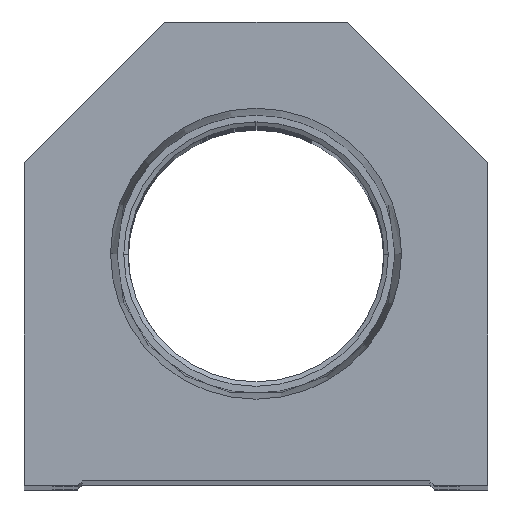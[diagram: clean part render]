
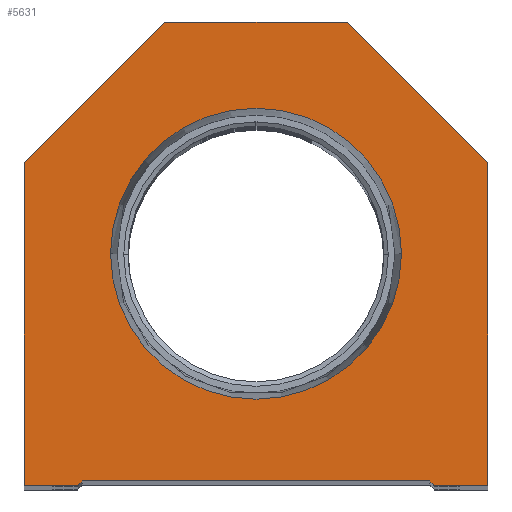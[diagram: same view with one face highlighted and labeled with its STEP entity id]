
A CAD part, top view. The second image highlights one B-rep face of the part: STEP entity #5631.
In plain terms, the highlighted planar face has unit normal (0, 0, 1).
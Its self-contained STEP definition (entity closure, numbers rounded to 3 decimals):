
#62 = DIRECTION ( 'NONE',  ( 0., 0., 1. ) ) ;
#351 = LINE ( 'NONE', #12432, #18778 ) ;
#560 = VECTOR ( 'NONE', #5741, 1000. ) ;
#974 = ORIENTED_EDGE ( 'NONE', *, *, #14354, .T. ) ;
#1681 = VECTOR ( 'NONE', #13711, 1000. ) ;
#2252 = CARTESIAN_POINT ( 'NONE',  ( -25.4, 0., 0. ) ) ;
#2334 = VECTOR ( 'NONE', #8551, 1000. ) ;
#2505 = DIRECTION ( 'NONE',  ( -0.707, 0.707, 0. ) ) ;
#2569 = CARTESIAN_POINT ( 'NONE',  ( 19.05, 0.5, 0. ) ) ;
#2792 = AXIS2_PLACEMENT_3D ( 'NONE', #17011, #14379, #17768 ) ;
#2877 = EDGE_CURVE ( 'NONE', #21519, #8787, #17196, .T. ) ;
#3186 = VERTEX_POINT ( 'NONE', #10537 ) ;
#3266 = CARTESIAN_POINT ( 'NONE',  ( 25.4, 35.4, 0. ) ) ;
#3599 = ORIENTED_EDGE ( 'NONE', *, *, #15642, .T. ) ;
#3644 = LINE ( 'NONE', #5189, #14522 ) ;
#3671 = PLANE ( 'NONE',  #21254 ) ;
#3989 = DIRECTION ( 'NONE',  ( 1., 0., 0. ) ) ;
#4129 = VECTOR ( 'NONE', #20834, 1000. ) ;
#4183 = CARTESIAN_POINT ( 'NONE',  ( -9.775, 9.775, 0. ) ) ;
#4505 = CARTESIAN_POINT ( 'NONE',  ( 19.55, 0., 0. ) ) ;
#4553 = VECTOR ( 'NONE', #9525, 1000. ) ;
#4874 = LINE ( 'NONE', #21818, #14083 ) ;
#5030 = VERTEX_POINT ( 'NONE', #2569 ) ;
#5189 = CARTESIAN_POINT ( 'NONE',  ( -19.05, 0., 0. ) ) ;
#5300 = CARTESIAN_POINT ( 'NONE',  ( -19.55, 0., 0. ) ) ;
#5631 = ADVANCED_FACE ( 'NONE', ( #12442, #10660 ), #3671, .T. ) ;
#5649 = CARTESIAN_POINT ( 'NONE',  ( 10., 50.8, 0. ) ) ;
#5741 = DIRECTION ( 'NONE',  ( 0.707, -0.707, 0. ) ) ;
#6141 = ORIENTED_EDGE ( 'NONE', *, *, #12780, .T. ) ;
#6261 = VERTEX_POINT ( 'NONE', #3266 ) ;
#6302 = CARTESIAN_POINT ( 'NONE',  ( -10., 50.8, 0. ) ) ;
#6327 = AXIS2_PLACEMENT_3D ( 'NONE', #15396, #62, #8356 ) ;
#6419 = ORIENTED_EDGE ( 'NONE', *, *, #15986, .F. ) ;
#6777 = VERTEX_POINT ( 'NONE', #20034 ) ;
#7329 = VERTEX_POINT ( 'NONE', #16388 ) ;
#7419 = LINE ( 'NONE', #21026, #560 ) ;
#7614 = VERTEX_POINT ( 'NONE', #2252 ) ;
#7720 = EDGE_CURVE ( 'NONE', #5030, #21519, #7419, .T. ) ;
#7748 = VERTEX_POINT ( 'NONE', #6302 ) ;
#7845 = CARTESIAN_POINT ( 'NONE',  ( 25.4, 35.4, 0. ) ) ;
#8356 = DIRECTION ( 'NONE',  ( 1., 0., 0. ) ) ;
#8551 = DIRECTION ( 'NONE',  ( 1., 0., 0. ) ) ;
#8727 = ORIENTED_EDGE ( 'NONE', *, *, #7720, .T. ) ;
#8787 = VERTEX_POINT ( 'NONE', #21080 ) ;
#8983 = CARTESIAN_POINT ( 'NONE',  ( 0., 0., 0. ) ) ;
#9073 = VECTOR ( 'NONE', #19044, 1000. ) ;
#9248 = ORIENTED_EDGE ( 'NONE', *, *, #18871, .T. ) ;
#9525 = DIRECTION ( 'NONE',  ( 0.707, 0.707, 0. ) ) ;
#10322 = LINE ( 'NONE', #10639, #9073 ) ;
#10331 = DIRECTION ( 'NONE',  ( 0., -1., 0. ) ) ;
#10537 = CARTESIAN_POINT ( 'NONE',  ( -15.947, 25.4, 0. ) ) ;
#10639 = CARTESIAN_POINT ( 'NONE',  ( 25.4, 0., 0. ) ) ;
#10660 = FACE_OUTER_BOUND ( 'NONE', #19102, .T. ) ;
#11043 = VERTEX_POINT ( 'NONE', #5649 ) ;
#11093 = ORIENTED_EDGE ( 'NONE', *, *, #21725, .F. ) ;
#12127 = CARTESIAN_POINT ( 'NONE',  ( 19.05, 0., 0. ) ) ;
#12228 = CARTESIAN_POINT ( 'NONE',  ( 15.947, 25.4, 0. ) ) ;
#12432 = CARTESIAN_POINT ( 'NONE',  ( -25.4, 0., 0. ) ) ;
#12442 = FACE_BOUND ( 'NONE', #15754, .T. ) ;
#12513 = VERTEX_POINT ( 'NONE', #12228 ) ;
#12780 = EDGE_CURVE ( 'NONE', #7748, #7329, #4874, .T. ) ;
#12854 = EDGE_CURVE ( 'NONE', #8787, #6261, #10322, .T. ) ;
#13488 = LINE ( 'NONE', #20503, #2334 ) ;
#13711 = DIRECTION ( 'NONE',  ( 1., 0., 0. ) ) ;
#14037 = CARTESIAN_POINT ( 'NONE',  ( 10., 50.8, 0. ) ) ;
#14083 = VECTOR ( 'NONE', #16924, 1000. ) ;
#14354 = EDGE_CURVE ( 'NONE', #11043, #7748, #17198, .T. ) ;
#14379 = DIRECTION ( 'NONE',  ( 0., 0., 1. ) ) ;
#14522 = VECTOR ( 'NONE', #15441, 1000. ) ;
#14540 = VECTOR ( 'NONE', #2505, 1000. ) ;
#14556 = LINE ( 'NONE', #7845, #14540 ) ;
#14560 = ORIENTED_EDGE ( 'NONE', *, *, #14704, .T. ) ;
#14704 = EDGE_CURVE ( 'NONE', #7329, #7614, #351, .T. ) ;
#15006 = ORIENTED_EDGE ( 'NONE', *, *, #2877, .T. ) ;
#15231 = ORIENTED_EDGE ( 'NONE', *, *, #15854, .T. ) ;
#15396 = CARTESIAN_POINT ( 'NONE',  ( 0., 25.4, 0. ) ) ;
#15441 = DIRECTION ( 'NONE',  ( 1., 0., 0. ) ) ;
#15642 = EDGE_CURVE ( 'NONE', #7614, #15668, #3644, .T. ) ;
#15668 = VERTEX_POINT ( 'NONE', #5300 ) ;
#15754 = EDGE_LOOP ( 'NONE', ( #6419, #11093 ) ) ;
#15854 = EDGE_CURVE ( 'NONE', #15668, #6777, #16210, .T. ) ;
#15877 = EDGE_CURVE ( 'NONE', #6261, #11043, #14556, .T. ) ;
#15930 = CIRCLE ( 'NONE', #6327, 15.947 ) ;
#15986 = EDGE_CURVE ( 'NONE', #12513, #3186, #22008, .T. ) ;
#16210 = LINE ( 'NONE', #4183, #4553 ) ;
#16388 = CARTESIAN_POINT ( 'NONE',  ( -25.4, 35.4, 0. ) ) ;
#16924 = DIRECTION ( 'NONE',  ( -0.707, -0.707, 0. ) ) ;
#17011 = CARTESIAN_POINT ( 'NONE',  ( 0., 25.4, 0. ) ) ;
#17093 = ORIENTED_EDGE ( 'NONE', *, *, #15877, .T. ) ;
#17196 = LINE ( 'NONE', #12127, #1681 ) ;
#17198 = LINE ( 'NONE', #14037, #4129 ) ;
#17768 = DIRECTION ( 'NONE',  ( 1., 0., 0. ) ) ;
#18778 = VECTOR ( 'NONE', #10331, 1000. ) ;
#18871 = EDGE_CURVE ( 'NONE', #6777, #5030, #13488, .T. ) ;
#19044 = DIRECTION ( 'NONE',  ( 0., 1., 0. ) ) ;
#19102 = EDGE_LOOP ( 'NONE', ( #3599, #15231, #9248, #8727, #15006, #19538, #17093, #974, #6141, #14560 ) ) ;
#19276 = DIRECTION ( 'NONE',  ( 0., 0., 1. ) ) ;
#19538 = ORIENTED_EDGE ( 'NONE', *, *, #12854, .T. ) ;
#20034 = CARTESIAN_POINT ( 'NONE',  ( -19.05, 0.5, 0. ) ) ;
#20503 = CARTESIAN_POINT ( 'NONE',  ( -19.05, 0.5, 0. ) ) ;
#20834 = DIRECTION ( 'NONE',  ( -1., 0., 0. ) ) ;
#21026 = CARTESIAN_POINT ( 'NONE',  ( 9.775, 9.775, 0. ) ) ;
#21080 = CARTESIAN_POINT ( 'NONE',  ( 25.4, 0., 0. ) ) ;
#21254 = AXIS2_PLACEMENT_3D ( 'NONE', #8983, #19276, #3989 ) ;
#21519 = VERTEX_POINT ( 'NONE', #4505 ) ;
#21725 = EDGE_CURVE ( 'NONE', #3186, #12513, #15930, .T. ) ;
#21818 = CARTESIAN_POINT ( 'NONE',  ( -25.4, 35.4, 0. ) ) ;
#22008 = CIRCLE ( 'NONE', #2792, 15.947 ) ;
